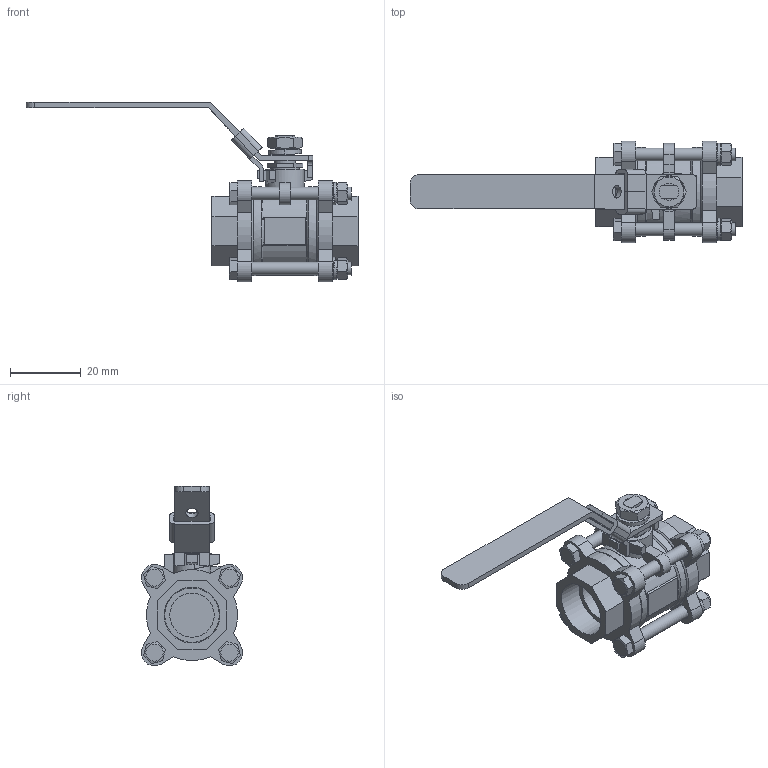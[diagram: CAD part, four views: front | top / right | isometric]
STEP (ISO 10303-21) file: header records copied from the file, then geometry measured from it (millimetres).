
FILE_DESCRIPTION((' '),'2;1');
FILE_NAME('N:\Technical Support\Private\Jomar Valve CAD\Ball Valves\CS and SS\1.25 T-SS-1000N-4B (500-306) FusionCopy.stp.step','2013-05-03T15:09:26',(' '),(' '),' ','ACIS',' ');
FILE_SCHEMA(('CONFIG_CONTROL_DESIGN'));
Length unit declared in the file: centimetre
Products named in the file (22): N:\Technical Support\Private\Jomar Valve CAD\Ball Valves\CS and SS\1.25 T-SS-1000N-4B (500-306) FusionCopy.stp.step; Body1; Body2; Body3; Body4; Body5; Body6; Body7; Body8; Body9; Body10; Body11; Body12; Body13; Body14; Body15; Body16; Body17; Body18; Body19; Body20; Body21
Assembly tree (21 placements, depth 2):
  N:\Technical Support\Private\Jomar Valve CAD\Ball Valves\CS and SS\1.25 T-SS-1000N-4B (500-306) FusionCopy.stp.step
    Body1
    Body2
    Body3
    Body4
    Body5
    Body6
    Body7
    Body8
    Body9
    Body10
    Body11
    Body12
    Body13
    Body14
    Body15
    Body16
    Body17
    Body18
    Body19
    Body20
    Body21
Bounding box: 94.06 x 28.7 x 50.88 mm (x, y, z)
Volume: 19812 mm3; surface area: 14505.9 mm2
Topology: 21 solids, 21 shells, 371 faces, 939 edges, 606 vertices
Faces by surface type: plane 167, bspline 121, cylinder 48, cone 35
Full cylindrical faces by diameter (mm): 3.19 x2, 3.53 x1, 3.66 x2, 4.25 x2, 4.29 x4, 4.86 x1, 5.9 x1, 6.05 x1, 8.15 x1, 11.04 x1, 12.55 x1, 25.22 x2
Entity records: 14284 total; most frequent: CARTESIAN_POINT 3050, ORIENTED_EDGE 1720, DIRECTION 1573, EDGE_CURVE 860, VERTEX_POINT 573, VECTOR 533, LINE 533, AXIS2_PLACEMENT_3D 520
